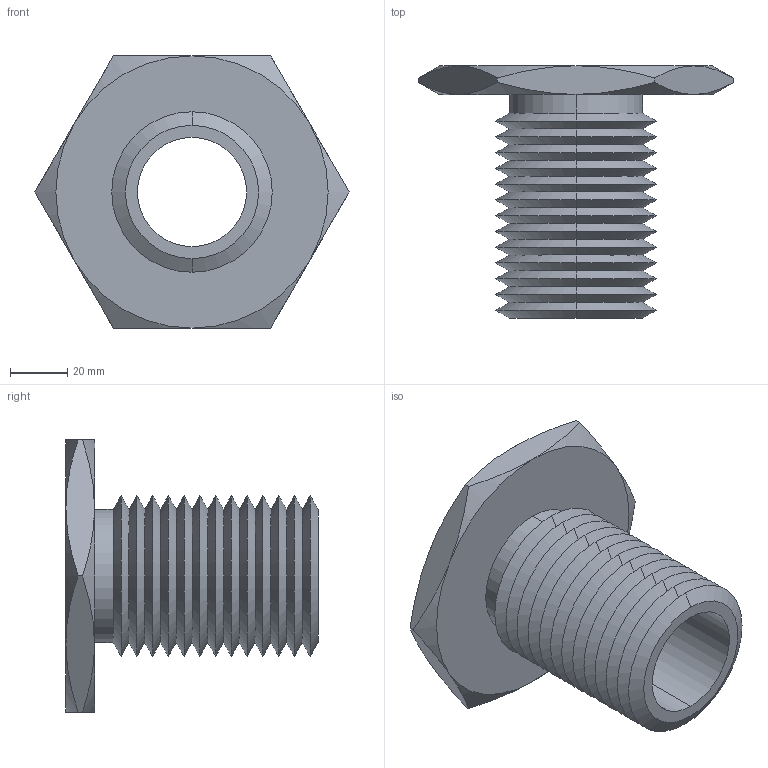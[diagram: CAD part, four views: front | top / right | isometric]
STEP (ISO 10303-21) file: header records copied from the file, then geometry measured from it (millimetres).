
FILE_DESCRIPTION (( 'STEP AP203' ), '1' );
FILE_NAME ('63302.W0056_1,50 UNC-6.step', '2013-12-08T11:24:40', ( 'User' ), ( '' ), 'SwSTEP 2.0', 'SolidWorks 2009', '' );
FILE_SCHEMA (( 'CONFIG_CONTROL_DESIGN' ));
Length unit declared in the file: millimetre
Products named in the file (1): 63302.W0056_1,50 UNC-6
Bounding box: 109.7 x 88 x 95 mm (x, y, z)
Volume: 133689.8 mm3; surface area: 50136.5 mm2
Topology: 1 solids, 1 shells, 79 faces, 162 edges, 86 vertices
Faces by surface type: cone 66, plane 9, cylinder 4
Entity records: 2271 total; most frequent: CARTESIAN_POINT 544, DIRECTION 372, ORIENTED_EDGE 324, EDGE_CURVE 162, AXIS2_PLACEMENT_3D 154, VERTEX_POINT 86, EDGE_LOOP 82, ADVANCED_FACE 79
